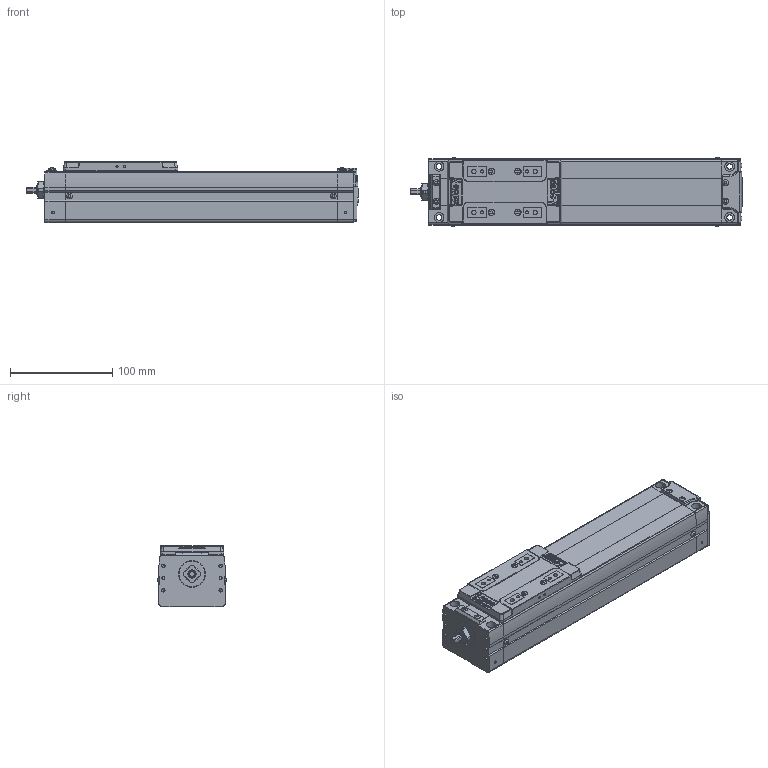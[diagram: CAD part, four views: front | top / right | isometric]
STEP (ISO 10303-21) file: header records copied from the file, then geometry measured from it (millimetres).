
FILE_DESCRIPTION(('STEP AP214'),'1');
FILE_NAME('Z:/Web/3D/SAN65/STP/SAN65ㅁㅁ-150.stp','2012-06-14T03:57:41',(' '),(' '),'Spatial InterOp 3D',' ',' ');
FILE_SCHEMA(('automotive_design'));
Length unit declared in the file: metre
Products named in the file (27): SAN65__-150; BODY-SAN65; REAR-SAN65; RRCV-SAN65; 스크루 : Round - M3.0 x 6.0; FRONT-SAN65; SHAFT-SAN65; RN8 x 0.75; SSFX-SAN65; SLIDE-SAN65; SLCV-SAN65; 스크루 : Countersunk - M3.0 x 6.0
Assembly tree (26 placements, depth 3):
  SAN65__-150
    BODY-SAN65
    REAR-SAN65
      REAR-SAN65
      RRCV-SAN65
      스크루 : Round - M3.0 x 6.0
      스크루 : Round - M3.0 x 6.0
      스크루 : Round - M3.0 x 6.0
      스크루 : Round - M3.0 x 6.0
      스크루 : Round - M3.0 x 6.0
      스크루 : Round - M3.0 x 6.0
    FRONT-SAN65
      FRONT-SAN65
      SHAFT-SAN65
      RN8 x 0.75
      SSFX-SAN65
      스크루 : Round - M3.0 x 6.0
      스크루 : Round - M3.0 x 6.0
      스크루 : Round - M3.0 x 6.0
      스크루 : Round - M3.0 x 6.0
    SLIDE-SAN65
      SLIDE-SAN65
      SLCV-SAN65
      스크루 : Countersunk - M3.0 x 6.0
      스크루 : Countersunk - M3.0 x 6.0
      스크루 : Countersunk - M3.0 x 6.0
      스크루 : Countersunk - M3.0 x 6.0
Bounding box: 324.65 x 67.13 x 60 mm (x, y, z)
Volume: 1000087.5 mm3; surface area: 145197.3 mm2
Topology: 23 solids, 23 shells, 1368 faces, 3537 edges, 2306 vertices
Faces by surface type: plane 842, cylinder 393, cone 67, bspline 26, sphere 22, torus 15, extrusion 3
Full cylindrical faces by diameter (mm): 0.571 x2, 0.706 x1, 1.727 x2, 2.132 x1, 2.2 x4, 2.5 x9, 2.528 x4, 3 x6, 3.121 x2, 3.3 x4, 3.4 x4, 3.5 x6, 4.2 x18, 4.849 x4, 5 x3, 5.5 x4, 5.987 x2, 6 x6, 7 x1, 8 x4, 9.5 x4, 13 x1, 15 x1, 19 x1
Entity records: 56273 total; most frequent: CARTESIAN_POINT 11619, DIRECTION 6921, ORIENTED_EDGE 6600, EDGE_CURVE 3300, AXIS2_PLACEMENT_3D 2330, VECTOR 2261, LINE 2258, VERTEX_POINT 2256
